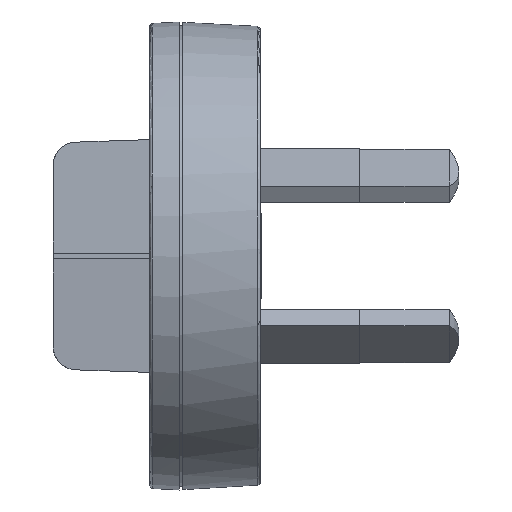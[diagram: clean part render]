
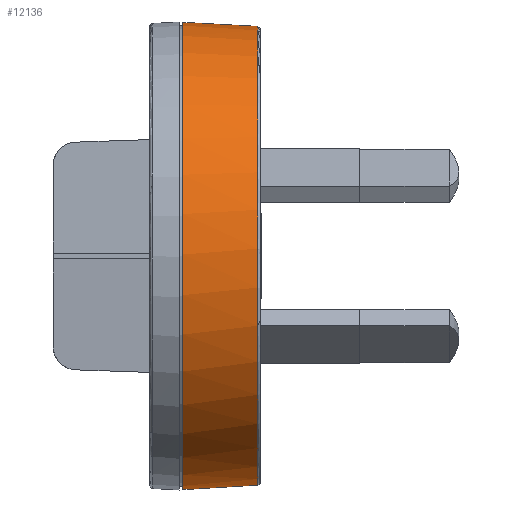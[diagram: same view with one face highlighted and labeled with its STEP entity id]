
A CAD part, left-side view. The second image highlights one B-rep face of the part: STEP entity #12136.
In plain terms, the highlighted conical face has half-angle 3 degrees and reference radius 19.979 mm.
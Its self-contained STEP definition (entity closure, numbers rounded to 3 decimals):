
#78=CONICAL_SURFACE('',#12822,19.979,0.052);
#254=FACE_BOUND('',#1342,.T.);
#281=ELLIPSE('',#12824,20.7,19.735);
#282=ELLIPSE('',#12825,20.7,19.735);
#419=B_SPLINE_CURVE_WITH_KNOTS('',3,(#17865,#17866,#17867,#17868,#17869,
#17870),.UNSPECIFIED.,.F.,.F.,(4,2,4),(-1.445,-1.356,
-1.267),.UNSPECIFIED.);
#485=CIRCLE('',#12774,19.643);
#508=CIRCLE('',#12823,19.979);
#686=FACE_OUTER_BOUND('',#1341,.T.);
#1341=EDGE_LOOP('',(#8289));
#1342=EDGE_LOOP('',(#8290,#8291,#8292,#8293));
#4976=VERTEX_POINT('',#17316);
#4977=VERTEX_POINT('',#17317);
#5076=VERTEX_POINT('',#17860);
#5077=VERTEX_POINT('',#17862);
#5078=VERTEX_POINT('',#17864);
#6220=EDGE_CURVE('',#4976,#4977,#485,.T.);
#6349=EDGE_CURVE('',#5076,#5076,#508,.T.);
#6350=EDGE_CURVE('',#4976,#5077,#281,.T.);
#6351=EDGE_CURVE('',#5077,#5078,#419,.T.);
#6352=EDGE_CURVE('',#5078,#4977,#282,.T.);
#8289=ORIENTED_EDGE('',*,*,#6349,.T.);
#8290=ORIENTED_EDGE('',*,*,#6220,.F.);
#8291=ORIENTED_EDGE('',*,*,#6350,.T.);
#8292=ORIENTED_EDGE('',*,*,#6351,.T.);
#8293=ORIENTED_EDGE('',*,*,#6352,.T.);
#12136=ADVANCED_FACE('',(#686,#254),#78,.T.);
#12774=AXIS2_PLACEMENT_3D('',#17318,#13868,#13869);
#12822=AXIS2_PLACEMENT_3D('',#17859,#14047,#14048);
#12823=AXIS2_PLACEMENT_3D('',#17861,#14049,#14050);
#12824=AXIS2_PLACEMENT_3D('',#17863,#14051,#14052);
#12825=AXIS2_PLACEMENT_3D('',#17871,#14053,#14054);
#13868=DIRECTION('center_axis',(0.,-1.,0.));
#13869=DIRECTION('ref_axis',(0.,0.,-1.));
#14047=DIRECTION('center_axis',(0.,1.,0.));
#14048=DIRECTION('ref_axis',(0.,0.,1.));
#14049=DIRECTION('center_axis',(0.,-1.,0.));
#14050=DIRECTION('ref_axis',(0.,0.,1.));
#14051=DIRECTION('center_axis',(0.,0.954,0.301));
#14052=DIRECTION('ref_axis',(0.,0.301,-0.954));
#14053=DIRECTION('center_axis',(0.,0.954,-0.301));
#14054=DIRECTION('ref_axis',(0.,-0.301,-0.954));
#17316=CARTESIAN_POINT('',(0.922,-22.01,5.413));
#17317=CARTESIAN_POINT('',(0.922,-22.01,-5.413));
#17318=CARTESIAN_POINT('Origin',(-17.96,-22.01,0.));
#17859=CARTESIAN_POINT('Origin',(-17.96,-15.6,0.));
#17860=CARTESIAN_POINT('',(-27.84,-15.6,17.365));
#17861=CARTESIAN_POINT('Origin',(-17.96,-15.6,0.));
#17862=CARTESIAN_POINT('',(1.737,-20.586,0.904));
#17863=CARTESIAN_POINT('Origin',(-17.96,-20.197,-0.327));
#17864=CARTESIAN_POINT('',(1.737,-20.586,-0.904));
#17865=CARTESIAN_POINT('Ctrl Pts',(1.737,-20.586,0.904));
#17866=CARTESIAN_POINT('Ctrl Pts',(1.756,-20.492,0.606));
#17867=CARTESIAN_POINT('Ctrl Pts',(1.765,-20.446,0.296));
#17868=CARTESIAN_POINT('Ctrl Pts',(1.765,-20.446,-0.296));
#17869=CARTESIAN_POINT('Ctrl Pts',(1.756,-20.492,-0.606));
#17870=CARTESIAN_POINT('Ctrl Pts',(1.737,-20.586,-0.904));
#17871=CARTESIAN_POINT('Origin',(-17.96,-20.197,0.327));
